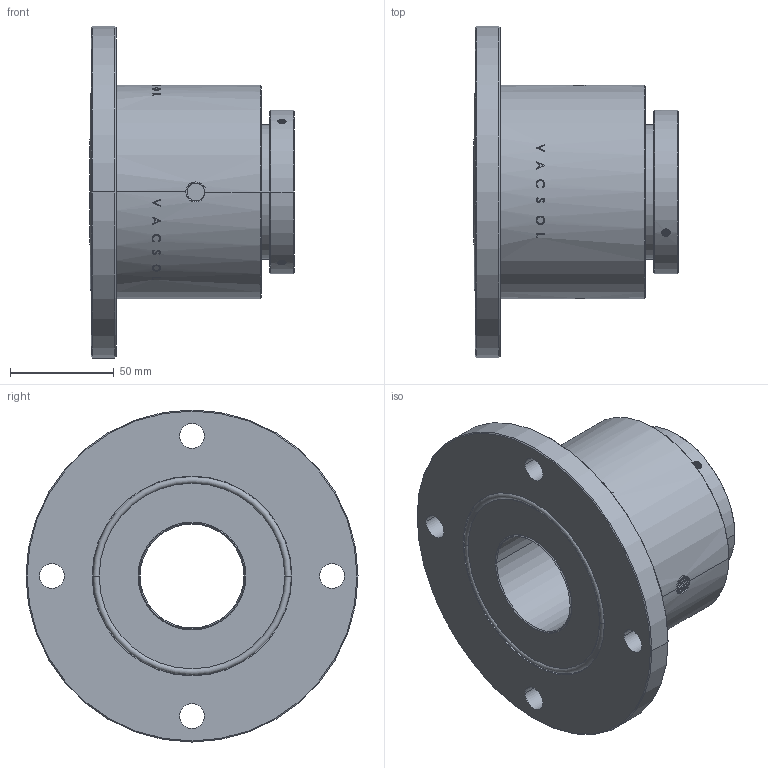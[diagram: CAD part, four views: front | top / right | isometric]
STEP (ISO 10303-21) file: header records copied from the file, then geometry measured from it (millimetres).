
FILE_DESCRIPTION (( 'STEP AP203' ), '1' );
FILE_NAME ('p14501.STEP', '2010-12-04T02:57:28', ( 'user' ), ( '' ), 'SwSTEP 2.0', 'SolidWorks 2007', '' );
FILE_SCHEMA (( 'CONFIG_CONTROL_DESIGN' ));
Products named in the file (1): p14501
Bounding box: 98.76 x 160 x 160 mm (x, y, z)
Volume: 695451.3 mm3; surface area: 99513.7 mm2
Topology: 2 solids, 2 shells, 652 faces, 1827 edges, 1208 vertices
Faces by surface type: cylinder 418, bspline 187, plane 23, cone 20, torus 4
Entity records: 44161 total; most frequent: CARTESIAN_POINT 31017, ORIENTED_EDGE 3654, EDGE_CURVE 1827, DIRECTION 1567, VERTEX_POINT 1208, EDGE_LOOP 699, ADVANCED_FACE 652, FACE_OUTER_BOUND 652
